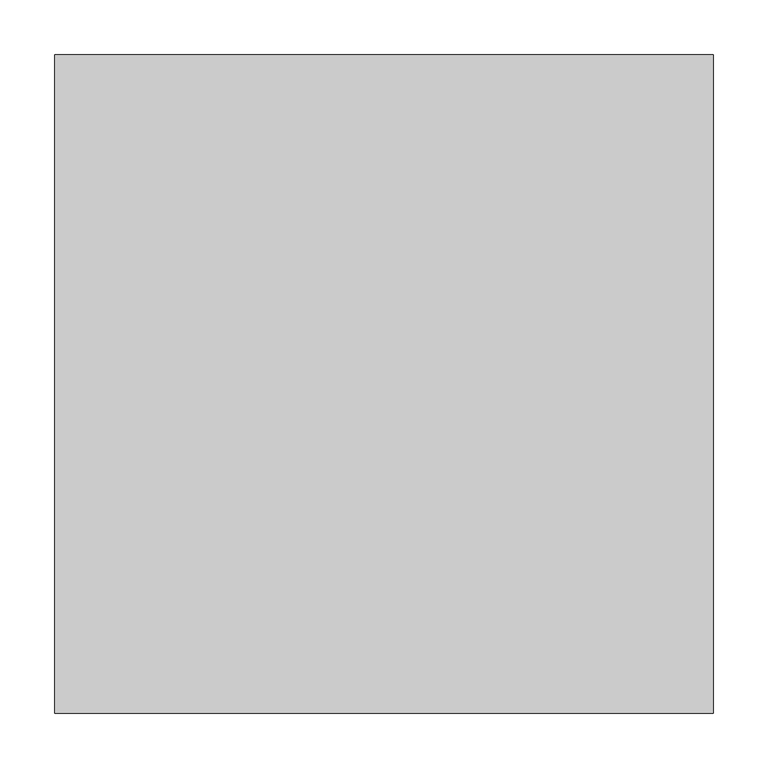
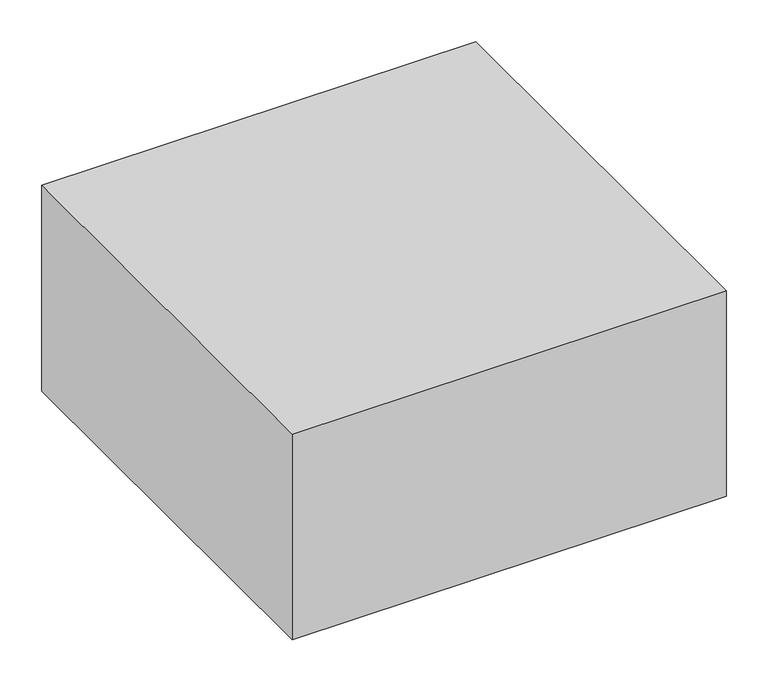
"""IFC4 building model written with IfcOpenShell, lengths in millimetres: valve geometry, Pipelife - Stormbox - Skrzynka rozsączająca przecięta w połowie : Skrzynka rozsączająca."""

from ifc_helpers import new_model, si_unit, origin, origin_with_axes, place, context, project, spatial, polyline, outline, extrude, source, transform, mapped, element, save


def valve_d310361c(model_context):
    return source(origin(), model_context, "Body", "SweptSolid", [
        extrude(outline(polyline([(0.0, 300.5), (0.0, -300.5), (-601.0, -300.5), (-601.0, 300.5), (0.0, 300.5)])), origin_with_axes(), (0.0, 0.0, 1.0), 301.0),
    ])


if __name__ == "__main__":
    model = new_model("IFC4")
    model_context = context("Model", 3, world=origin())
    ifc_project = project(units=[si_unit("LENGTHUNIT", "METRE", prefix="MILLI")], contexts=[model_context])
    site = spatial("IfcSite", under=ifc_project)
    building = spatial("IfcBuilding", under=site)
    placement = place(None, origin())
    valve_shape = valve_d310361c(model_context)
    element("IfcValve", 1, ObjectType="Pipelife - Stormbox - Skrzynka rozsączająca przecięta w połowie : Skrzynka rozsączająca", at=placement, inside=building, context=model_context, shape_type="MappedRepresentation", body=[
        mapped(valve_shape, transform((0.0, 0.0, 0.0), x_axis=(1.0, 0.0, 0.0), y_axis=(0.0, 1.0, 0.0), z_axis=(0.0, 0.0, 1.0))),
    ])
    save(model, "model.ifc")
